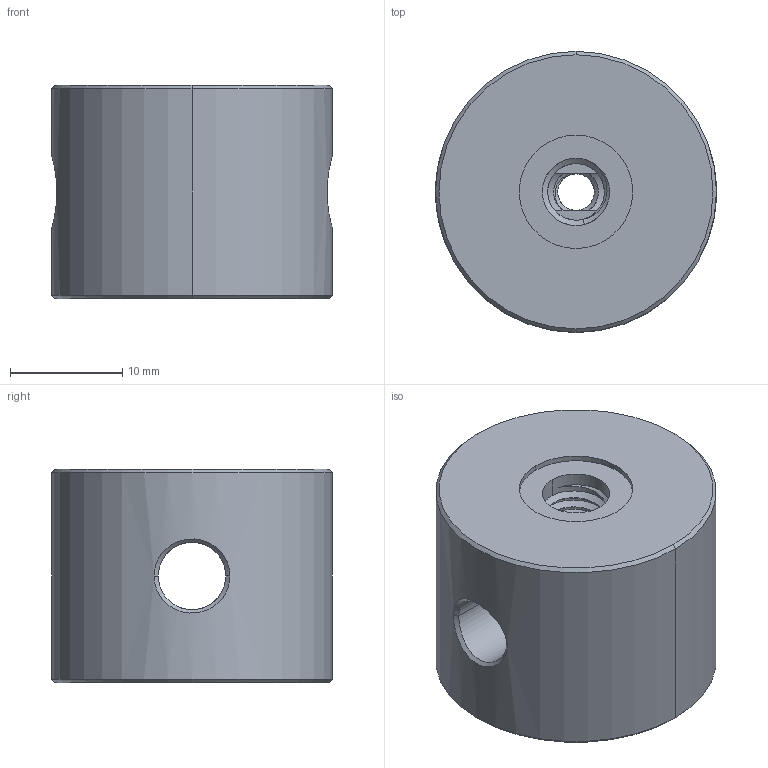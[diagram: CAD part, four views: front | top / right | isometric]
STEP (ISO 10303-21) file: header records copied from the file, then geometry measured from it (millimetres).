
FILE_DESCRIPTION((''),'2;1');
FILE_NAME('PFC-19-S2','2022-10-10T',('daizh'),(''),'CREO PARAMETRIC BY PTC INC, 2018360','CREO PARAMETRIC BY PTC INC, 2018360','');
FILE_SCHEMA(('CONFIG_CONTROL_DESIGN'));
Length unit declared in the file: millimetre
Products named in the file (1): PFC-19-S2
Bounding box: 25 x 25 x 19 mm (x, y, z)
Volume: 8307.4 mm3; surface area: 3071.8 mm2
Topology: 1 solids, 1 shells, 66 faces, 173 edges, 111 vertices
Faces by surface type: cylinder 35, bspline 19, plane 8, cone 4
Entity records: 5032 total; most frequent: CARTESIAN_POINT 3573, ORIENTED_EDGE 346, DIRECTION 201, EDGE_CURVE 173, VERTEX_POINT 111, B_SPLINE_CURVE_WITH_KNOTS 91, EDGE_LOOP 74, AXIS2_PLACEMENT_3D 72
